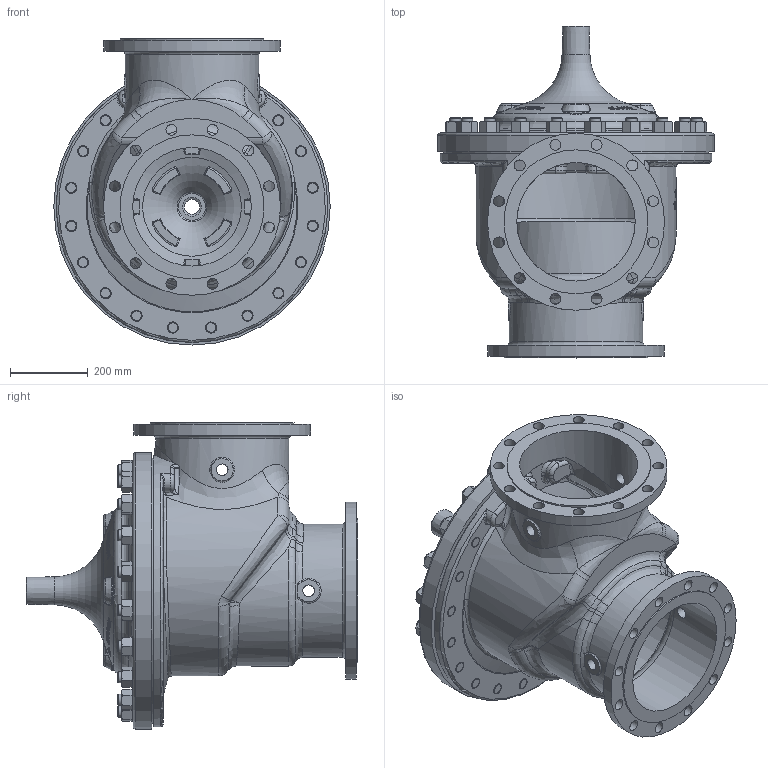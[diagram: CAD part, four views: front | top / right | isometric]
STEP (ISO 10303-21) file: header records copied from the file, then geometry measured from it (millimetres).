
FILE_DESCRIPTION(/* description */ (''),/* implementation_level */ '2;1');
FILE_NAME(/* name */ 'G:\Doc_Liberes\SymbolesCAD\Modeles_3D\FichierSTP\VanneDeBase\AE300-16RF.stp',/* time_stamp */ '2019-05-01T08:42:09+02:00',/* author */ ('sylvain'),/* organization */ (''),/* preprocessor_version */ 'ST-DEVELOPER v17',/* originating_system */ 'Autodesk Inventor 2018',/* authorisation */ '');
FILE_SCHEMA (('AUTOMOTIVE_DESIGN { 1 0 10303 214 3 1 1 }'));
Products named in the file (6): AE300-16RF; 57193-40; AE300-16RF_1; ANSI B18.22.1 - 1 1/8 - proche - Type B; ANSI B18.2.2 - 1 1/8 - 7; V6896-02A
Assembly tree (62 placements, depth 2):
  AE300-16RF
    57193-40
    AE300-16RF_1
    ANSI B18.22.1 - 1 1/8 - proche - Type B  x20
    ANSI B18.2.2 - 1 1/8 - 7  x20
    V6896-02A  x20
Bounding box: 711.2 x 853.55 x 787.4 mm (x, y, z)
Volume: 44467840.5 mm3; surface area: 4436487.2 mm2
Topology: 62 solids, 62 shells, 2396 faces, 6112 edges, 3904 vertices
Faces by surface type: plane 878, cone 631, bspline 396, cylinder 342, torus 99, sphere 50
Full cylindrical faces by diameter (mm): 6.4 x12, 17.294 x4, 24.638 x20, 24.64 x20, 28 x24, 28.575 x20, 30.175 x20, 30.29 x4, 30.291 x4, 32 x20, 38.952 x1, 48.514 x1, 50.8 x20, 58 x20, 70 x1, 304.8 x1, 304.9 x1, 336.55 x1, 342.8 x1, 342.9 x1, 349.35 x1, 370 x2, 381 x1, 381.508 x1, 455 x2, 682 x1, 687.7 x1, 711.2 x1
Entity records: 85555 total; most frequent: CARTESIAN_POINT 39787, ORIENTED_EDGE 9738, DIRECTION 8778, EDGE_CURVE 4869, AXIS2_PLACEMENT_3D 3879, VERTEX_POINT 3202, CIRCLE 2310, EDGE_LOOP 2054
